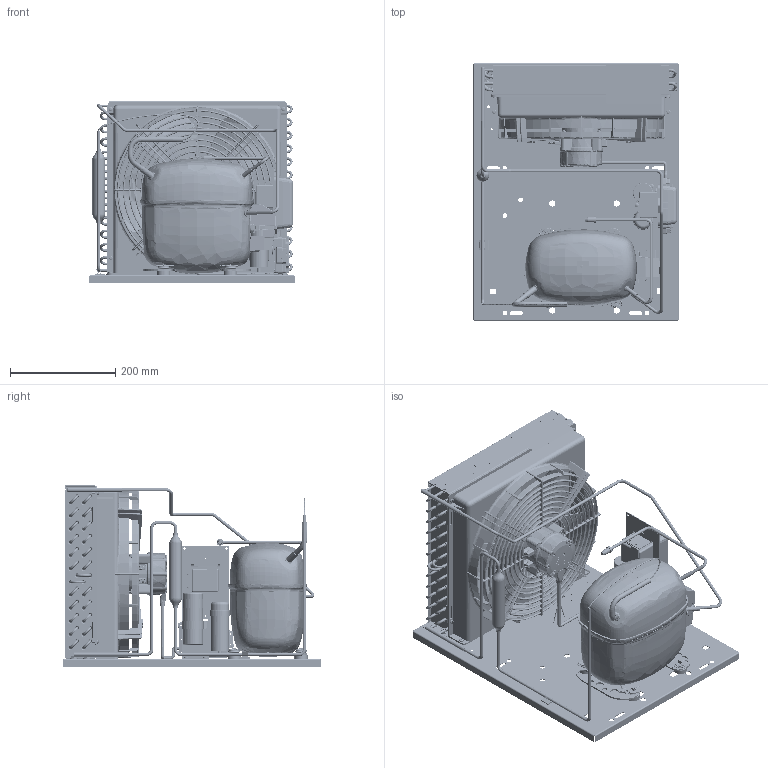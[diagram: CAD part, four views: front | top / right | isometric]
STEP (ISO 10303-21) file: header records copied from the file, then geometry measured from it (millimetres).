
FILE_DESCRIPTION(/* description */ ('Unknown'),/* implementation_level */ '2;1');
FILE_NAME(/* name */ '2298-0078',/* time_stamp */ '2022-03-23T14:39:37+01:00',/* author */ ('Unknown'),/* organization */ ('Unknown'),/* preprocessor_version */ 'ST-DEVELOPER v16.7',/* originating_system */ 'Solid Edge',/* authorisation */ 'Unknown');
FILE_SCHEMA (('AUTOMOTIVE_DESIGN {1 0 10303 214 3 1 1}'));
Products named in the file (48): 2298-0078; 92505124_oa_0; 1340315FI0_oa_1; RL5028606; RL5028607; R59A00366; RL5028601; 2905051820; R57A00366; 2905052520; rn5014308; rl5014904; 84fm6x8xxxxtesf00; cg300n; 84a4.2x9.5xtbcf01; 84DM6X5.2XXESRF00; 62010155; 99500100; 9221-0002; 84dm4x3.6xxesrf00; 118-3661; 84RM10X21XXPIAF00; 118-7353; 104H8160; 6805-1350; 6803-1610; 99540010; 6803-1626; 6803-1627; GFN30_62-62; 6803-1629; 2992137_oa_2; a300-22; a300-22_costruzione_oa_3; a300-22_costruzione_oa_4; a300-22_costruzione_oa_5; a300-22_costruzione_oa_6; a300-22_costruzione_oa_7; 55503015; 99000324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
Assembly tree (120 placements, depth 3):
  2298-0078
    92505124_oa_0
    1340315FI0_oa_1
      RL5028606
      RL5028607
      R59A00366  x2
      RL5028601
      2905051820  x22
      R57A00366  x24
      2905052520  x2
      rn5014308
      rl5014904  x2
    84fm6x8xxxxtesf00  x4
    cg300n
    84a4.2x9.5xtbcf01  x9
    84DM6X5.2XXESRF00  x4
    62010155
    99500100
    9221-0002
    84dm4x3.6xxesrf00  x4
    118-3661  x4
    84RM10X21XXPIAF00  x4
    118-7353  x4
    104H8160
    6805-1350
    6803-1610
    99540010
    6803-1626
    6803-1627
    GFN30_62-62
    6803-1629
    2992137_oa_2
    a300-22
      a300-22_costruzione_oa_3
      a300-22_costruzione_oa_4
      a300-22_costruzione_oa_5
      a300-22_costruzione_oa_6
      a300-22_costruzione_oa_7
    55503015
    99000324
    99000326
    99000327
    99000082_secop
    99000082_SECOP_F-GAS
    99000321
    99100226
    2298-0078_CAVO_VENTOLA
    99000205
Bounding box: 390 x 490 x 345.3 mm (x, y, z)
Volume: 6423542.5 mm3; surface area: 3094421.8 mm2
Topology: 119 solids, 123 shells, 16029 faces, 42038 edges, 26855 vertices
Faces by surface type: plane 7810, cylinder 3272, bspline 2176, torus 1667, cone 945, sphere 159
Full cylindrical faces by diameter (mm): 0.5 x1, 1.2 x4, 1.3 x2, 1.5 x2, 1.8 x2, 1.945 x3, 2 x20, 2.2 x4, 2.31 x5, 2.45 x6, 2.95 x7, 3 x1, 3.14 x6, 3.2 x7, 3.242 x4, 3.36 x4, 3.375 x1, 3.5 x17, 3.6 x2, 3.8 x7, 3.9 x2, 4 x78, 4.2 x30, 4.205 x11, 4.5 x68, 4.6 x5, 4.76 x4, 5 x105, 5.1 x2, 5.104 x1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
Entity records: 763449 total; most frequent: CARTESIAN_POINT 348924, ORIENTED_EDGE 76152, DIRECTION 58651, EDGE_CURVE 38076, VERTEX_POINT 25039, AXIS2_PLACEMENT_3D 21305, EDGE_LOOP 17989, FACE_BOUND 17989
